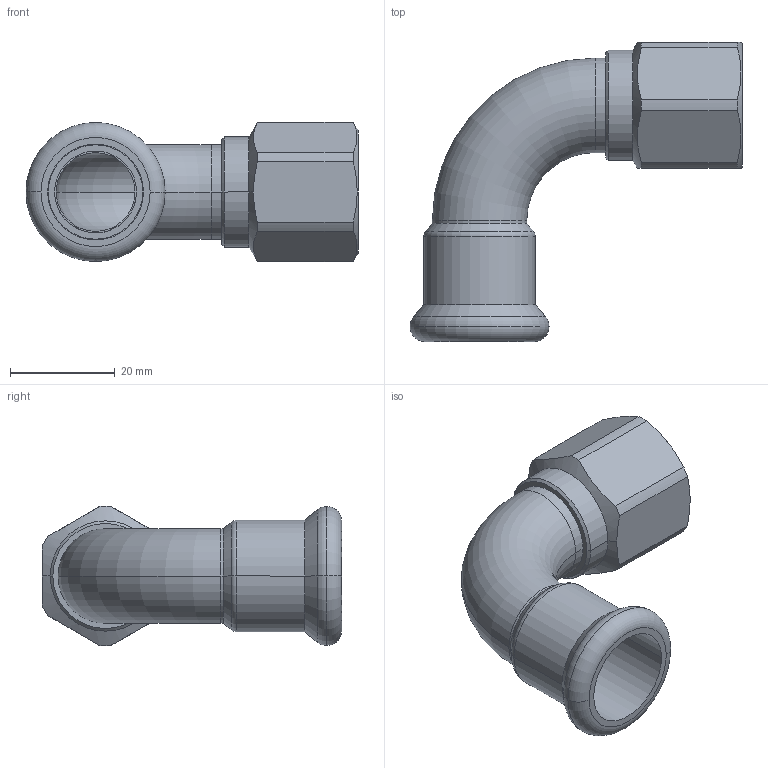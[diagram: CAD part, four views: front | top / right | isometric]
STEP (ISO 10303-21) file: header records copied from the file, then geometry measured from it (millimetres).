
FILE_DESCRIPTION(('CoCreate Modeling STEP Export'),'2;1');
FILE_NAME('C1438 18xRp1-2.stp','2014-11-12T16:35:05',(''),(''),'CoCreate Modeling STEP processor for AP214 (Solid Model)','CoCreate Modeling 17.00A 17-Jun-2010 (C) Parametric Technology GmbH','');
FILE_SCHEMA(('AUTOMOTIVE_DESIGN { 1 0 10303 214 1 1 1 1 }'));
Length unit declared in the file: millimetre
Products named in the file (2): C1438_18xRp1-2
Assembly tree (1 placements, depth 2):
  C1438_18xRp1-2
    C1438_18xRp1-2
Bounding box: 63.25 x 57 x 26.59 mm (x, y, z)
Volume: 11424.1 mm3; surface area: 10976.9 mm2
Topology: 1 solids, 1 shells, 65 faces, 145 edges, 87 vertices
Faces by surface type: cylinder 28, cone 14, plane 13, torus 10
Entity records: 2340 total; most frequent: CARTESIAN_POINT 1066, ORIENTED_EDGE 290, DIRECTION 210, EDGE_CURVE 145, VERTEX_POINT 87, AXIS2_PLACEMENT_3D 81, EDGE_LOOP 72, FACE_OUTER_BOUND 65
